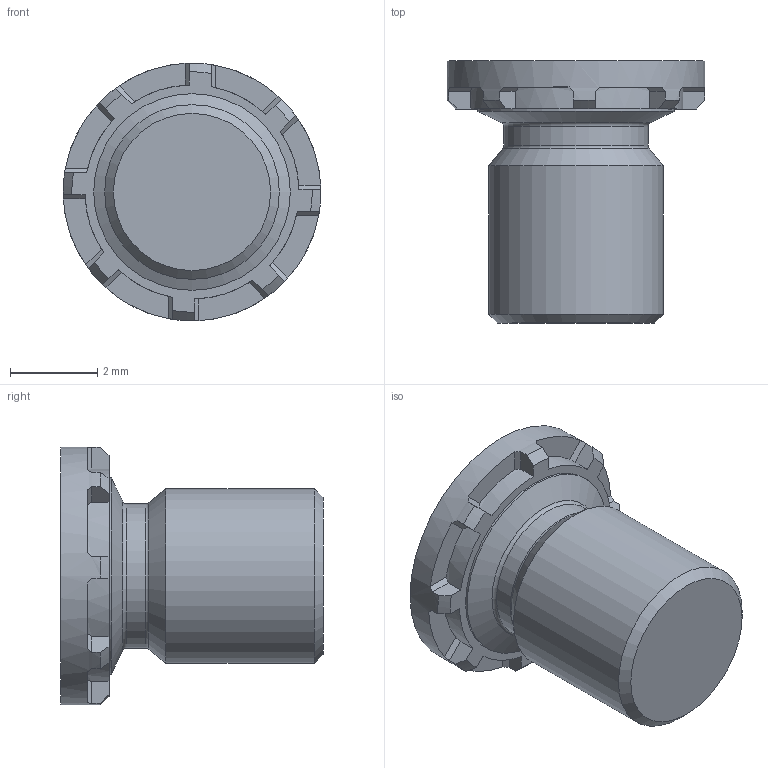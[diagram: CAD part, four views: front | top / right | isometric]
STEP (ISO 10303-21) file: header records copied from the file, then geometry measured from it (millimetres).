
FILE_DESCRIPTION(/* description */ (''),/* implementation_level */ '2;1');
FILE_NAME(/* name */ 'C:\Users\keval.kumar\Desktop\Fastit\Clinch Screw- FH Range\M4\Clinch Screw-FH Range_M4x6.stp',/* time_stamp */ '2024-03-12T11:57:29+05:00',/* author */ ('keval.kumar'),/* organization */ (''),/* preprocessor_version */ 'ST-DEVELOPER v18.1',/* originating_system */ 'Autodesk Inventor 2022',/* authorisation */ '');
FILE_SCHEMA (('AUTOMOTIVE_DESIGN { 1 0 10303 214 3 1 1 }'));
Length unit declared in the file: millimetre
Products named in the file (1): Clinch Screw-FH Range_M4x6
Bounding box: 5.9 x 6 x 5.9 mm (x, y, z)
Volume: 85.1 mm3; surface area: 137.2 mm2
Topology: 1 solids, 1 shells, 68 faces, 193 edges, 128 vertices
Faces by surface type: plane 43, cylinder 12, cone 11, torus 2
Full cylindrical faces by diameter (mm): 3.3 x1, 4 x1, 4.5 x1, 5.9 x1
Entity records: 2286 total; most frequent: DIRECTION 413, CARTESIAN_POINT 406, ORIENTED_EDGE 386, EDGE_CURVE 193, AXIS2_PLACEMENT_3D 159, VERTEX_POINT 128, LINE 95, VECTOR 95
